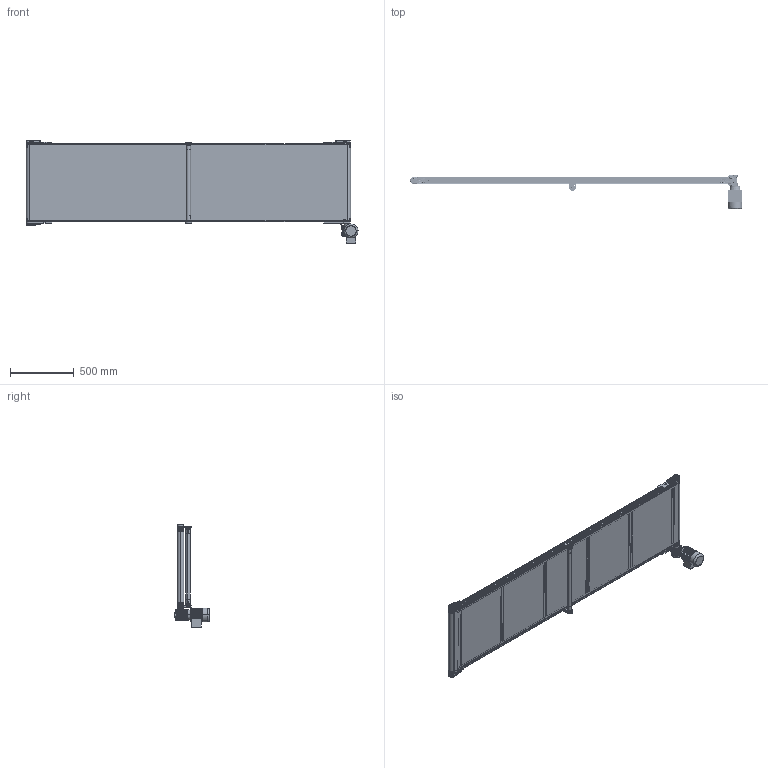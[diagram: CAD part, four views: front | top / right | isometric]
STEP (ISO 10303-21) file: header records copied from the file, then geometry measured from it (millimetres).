
FILE_DESCRIPTION (( 'STEP AP203' ), '1' );
FILE_NAME ('NASTRO_RETTILINEO_TAPPETO.step', '2026-05-05T07:27:53', ( 'Utente Windows' ), ( '' ), 'SwSTEP 2.0', 'SolidWorks 2024', '' );
FILE_SCHEMA (( 'CONFIG_CONTROL_DESIGN' ));
Length unit declared in the file: millimetre
Products named in the file (41): 084.807.003_084.807.003<A macchina>; 084.802.061; RULLO_50_RINVIO_CINGHIE; TELAIO_50_CINGHIE_Default<A macchina>; 084.808.012; 084.802.008; BLOCCO_RINVIO_50_CORTA; VITI TCEI UNI 5931_M4x10 UNI 5931; 084.302.000 DADI ALUSIC 13x13-1_084.302.007; 084.802.014; 084.807.002_084.807.002; VITI TE UNI 5739_M6x16 UNI 5739; 084.802.062; 084.802.071; VITE_RONDELLA_M8X20; BLOCCO_BRACCIO_CH03P_VF30P; VITE_DADO_M5X12; NASTRO_RETTILINEO_TAPPETO; VITI TSEI UNI 5933_M5x12 UNI 5933; BLOCCO_REGGITAPPETO; BLOCCO_TRAINO_50_STANDARD_30_SX_Motore a Sx; 084.802.017_084.802.017; 084.802.066_Default<A macchina>; 084.802.028; RULLO_REGGITAPPETO; BLOCCO_TRAINO_50_STANDARD; TAPPETO_STANDARD_CINGHIE; 084.803.018; 084.802.013-2; CH03P_SX; 084.302.000 DADI ALUSIC 13x13-1_084.302.004; RULLO_50_TRAINO_CINGHIE_30_SX; LAMIERA_STANDARD; 084.303.001; 084.302.000 DADI ALUSIC 13x13_084.302.004; VITI TSEI UNI 5933 INOX_0412UNI5933A2; 084.807.004_084.807.004; 084.301.000 VITI ALUSIC_084.301.003; VITI TSEI UNI 5933_M4x12 UNI 5933; VITI TCEI UNI 5931_M6x12 UNI 5931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
Assembly tree (98 placements, depth 4):
  NASTRO_RETTILINEO_TAPPETO
    TAPPETO_STANDARD_CINGHIE
    TELAIO_50_CINGHIE_Default<A macchina>
    LAMIERA_STANDARD  x2
    RULLO_50_TRAINO_CINGHIE_30_SX
    BLOCCO_TRAINO_50_STANDARD
      084.807.002_084.807.002
      084.802.017_084.802.017
      084.301.000 VITI ALUSIC_084.301.003  x2
      084.302.000 DADI ALUSIC 13x13-1_084.302.004  x2
      VITI TSEI UNI 5933_M4x12 UNI 5933  x4
      084.802.071
      VITI TSEI UNI 5933 INOX_0412UNI5933A2  x2
    BLOCCO_TRAINO_50_STANDARD_30_SX_Motore a Sx
      084.807.003_084.807.003<A macchina>
      084.802.017_084.802.017
      084.301.000 VITI ALUSIC_084.301.003  x2
      084.302.000 DADI ALUSIC 13x13-1_084.302.004  x2
      BLOCCO_BRACCIO_CH03P_VF30P
        084.808.012
        084.802.062
        084.802.061
        VITI TE UNI 5739_M6x16 UNI 5739  x4
        084.803.018
        VITI TCEI UNI 5931_M6x12 UNI 5931  x4
      084.802.066_Default<A macchina>
      VITI TCEI UNI 5931_M4x25 UNI 5931  x2
    RULLO_50_RINVIO_CINGHIE
    BLOCCO_RINVIO_50_CORTA  x2
      084.807.004_084.807.004
      084.802.017_084.802.017
      084.802.008
      084.301.000 VITI ALUSIC_084.301.003
      084.302.000 DADI ALUSIC 13x13_084.302.004
      VITI TCEI UNI 5931_M4x10 UNI 5931
      084.802.071
    VITE_RONDELLA_M8X20  x9
      084.303.001
      084.301.000 VITI ALUSIC_084.301.003
    VITE_DADO_M5X12  x16
      084.302.000 DADI ALUSIC 13x13-1_084.302.007
      VITI TSEI UNI 5933_M5x12 UNI 5933
    BLOCCO_REGGITAPPETO  x2
      084.301.000 VITI ALUSIC_084.301.003
      084.302.000 DADI ALUSIC 13x13-1_084.302.004
      084.802.017_084.802.017
      084.802.028
      084.802.014
      084.802.013-2
    RULLO_REGGITAPPETO
    CH03P_SX
Bounding box: 2612 x 273 x 814.4 mm (x, y, z)
Volume: 21445545.5 mm3; surface area: 14521644.1 mm2
Topology: 175 solids, 183 shells, 7458 faces, 19208 edges, 12290 vertices
Faces by surface type: plane 4059, cylinder 1800, cone 615, bspline 579, torus 363, sphere 42
Entity records: 152622 total; most frequent: CARTESIAN_POINT 42955, ORIENTED_EDGE 22376, DIRECTION 20943, EDGE_CURVE 11188, VERTEX_POINT 7211, AXIS2_PLACEMENT_3D 7143, VECTOR 6657, LINE 6657
